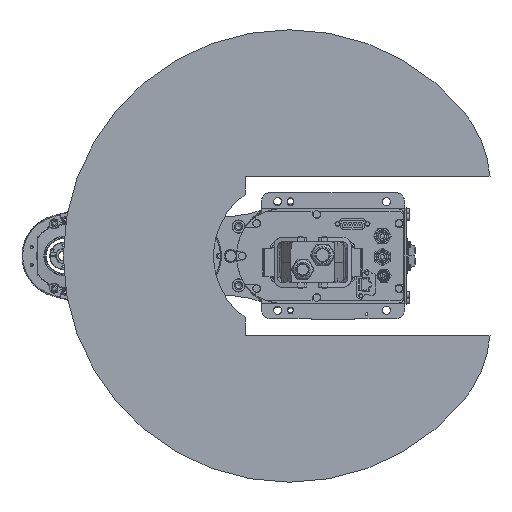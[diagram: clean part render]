
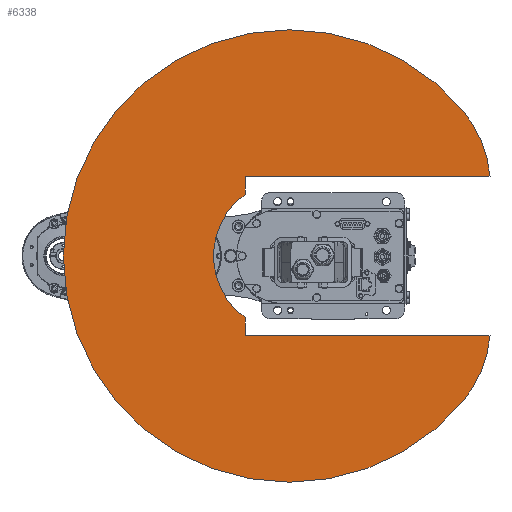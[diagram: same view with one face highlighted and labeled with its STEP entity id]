
A CAD part, front view. The second image highlights one B-rep face of the part: STEP entity #6338.
In plain terms, the highlighted planar face has unit normal (0, -1, 0).
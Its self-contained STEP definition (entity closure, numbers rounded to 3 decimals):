
#6338 = ADVANCED_FACE( '', ( #15850 ), #15851, .F. );
#15850 = FACE_OUTER_BOUND( '', #29589, .T. );
#15851 = PLANE( '', #29590 );
#29589 = EDGE_LOOP( '', ( #49762, #49763, #49764, #49765, #49766, #49767, #49768, #49769 ) );
#29590 = AXIS2_PLACEMENT_3D( '', #49770, #49771, #49772 );
#49762 = ORIENTED_EDGE( '', *, *, #74564, .T. );
#49763 = ORIENTED_EDGE( '', *, *, #74870, .F. );
#49764 = ORIENTED_EDGE( '', *, *, #78882, .F. );
#49765 = ORIENTED_EDGE( '', *, *, #78883, .F. );
#49766 = ORIENTED_EDGE( '', *, *, #77188, .T. );
#49767 = ORIENTED_EDGE( '', *, *, #78884, .T. );
#49768 = ORIENTED_EDGE( '', *, *, #78885, .T. );
#49769 = ORIENTED_EDGE( '', *, *, #78886, .T. );
#49770 = CARTESIAN_POINT( '', ( 38.567, 0., 45.963 ) );
#49771 = DIRECTION( '', ( 0., 1., 0. ) );
#49772 = DIRECTION( '', ( 0., 0., 1. ) );
#74564 = EDGE_CURVE( '', #88373, #88371, #88374, .T. );
#74870 = EDGE_CURVE( '', #88939, #88371, #88941, .T. );
#77188 = EDGE_CURVE( '', #92845, #92850, #92852, .T. );
#78882 = EDGE_CURVE( '', #95569, #88939, #95570, .T. );
#78883 = EDGE_CURVE( '', #92845, #95569, #95571, .T. );
#78884 = EDGE_CURVE( '', #92850, #95572, #95573, .T. );
#78885 = EDGE_CURVE( '', #95572, #95574, #95575, .T. );
#78886 = EDGE_CURVE( '', #95574, #88373, #95576, .T. );
#88371 = VERTEX_POINT( '', #109077 );
#88373 = VERTEX_POINT( '', #109080 );
#88374 = LINE( '', #109081, #109082 );
#88939 = VERTEX_POINT( '', #110297 );
#88941 = CIRCLE( '', #110300, 130. );
#92845 = VERTEX_POINT( '', #116525 );
#92850 = VERTEX_POINT( '', #116532 );
#92852 = LINE( '', #116535, #116536 );
#95569 = VERTEX_POINT( '', #121388 );
#95570 = CIRCLE( '', #121389, 250. );
#95571 = CIRCLE( '', #121390, 130. );
#95572 = VERTEX_POINT( '', #121391 );
#95573 = LINE( '', #121392, #121393 );
#95574 = VERTEX_POINT( '', #121394 );
#95575 = CIRCLE( '', #121395, 84. );
#95576 = LINE( '', #121396, #121397 );
#109077 = CARTESIAN_POINT( '', ( -88., 0., 221.47 ) );
#109080 = CARTESIAN_POINT( '', ( -88., 0., -49. ) );
#109081 = CARTESIAN_POINT( '', ( -88., 0., -49. ) );
#109082 = VECTOR( '', #138528, 1000. );
#110297 = CARTESIAN_POINT( '', ( -160.697, 0., 191.511 ) );
#110300 = AXIS2_PLACEMENT_3D( '', #138670, #138671, #138672 );
#116525 = CARTESIAN_POINT( '', ( 88., 0., 221.47 ) );
#116532 = CARTESIAN_POINT( '', ( 88., 0., -49. ) );
#116535 = CARTESIAN_POINT( '', ( 88., 0., 351. ) );
#116536 = VECTOR( '', #141410, 1000. );
#121388 = CARTESIAN_POINT( '', ( 160.697, 0., 191.511 ) );
#121389 = AXIS2_PLACEMENT_3D( '', #143204, #143205, #143206 );
#121390 = AXIS2_PLACEMENT_3D( '', #143207, #143208, #143209 );
#121391 = CARTESIAN_POINT( '', ( 68.228, 0., -49. ) );
#121392 = CARTESIAN_POINT( '', ( 88., 0., -49. ) );
#121393 = VECTOR( '', #143210, 1000. );
#121394 = CARTESIAN_POINT( '', ( -68.228, 0., -49. ) );
#121395 = AXIS2_PLACEMENT_3D( '', #143211, #143212, #143213 );
#121396 = CARTESIAN_POINT( '', ( 88., 0., -49. ) );
#121397 = VECTOR( '', #143214, 1000. );
#138528 = DIRECTION( '', ( 0., 0., 1. ) );
#138670 = CARTESIAN_POINT( '', ( -77.135, 0., 91.925 ) );
#138671 = DIRECTION( '', ( 0., 1., 0. ) );
#138672 = DIRECTION( '', ( 1., 0., 0. ) );
#141410 = DIRECTION( '', ( 0., 0., -1. ) );
#143204 = CARTESIAN_POINT( '', ( 0., 0., 0. ) );
#143205 = DIRECTION( '', ( 0., 1., 0. ) );
#143206 = DIRECTION( '', ( 1., 0., 0. ) );
#143207 = CARTESIAN_POINT( '', ( 77.135, 0., 91.925 ) );
#143208 = DIRECTION( '', ( 0., 1., 0. ) );
#143209 = DIRECTION( '', ( 1., 0., 0. ) );
#143210 = DIRECTION( '', ( -1., 0., 0. ) );
#143211 = CARTESIAN_POINT( '', ( 0., 0., 0. ) );
#143212 = DIRECTION( '', ( 0., 1., 0. ) );
#143213 = DIRECTION( '', ( 1., 0., 0. ) );
#143214 = DIRECTION( '', ( -1., 0., 0. ) );
